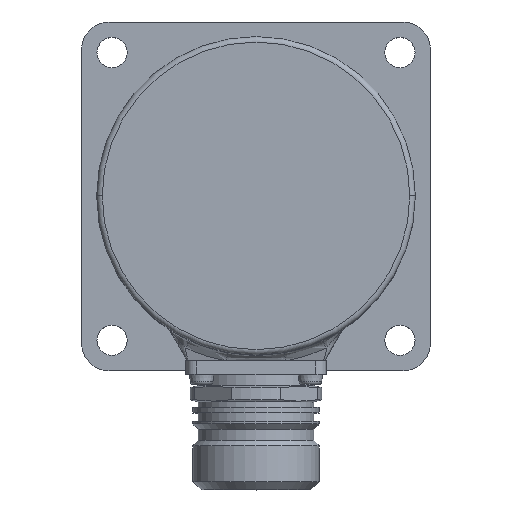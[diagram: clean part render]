
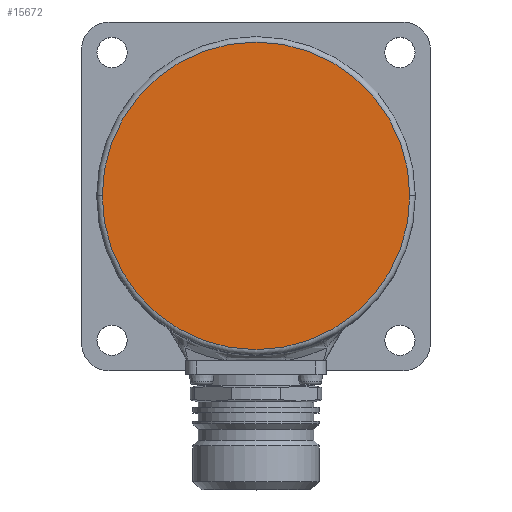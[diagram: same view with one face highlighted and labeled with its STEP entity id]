
A CAD part, top view. The second image highlights one B-rep face of the part: STEP entity #15672.
In plain terms, the highlighted planar face has unit normal (0, 0, 1).
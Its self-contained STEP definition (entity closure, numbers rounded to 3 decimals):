
#8752 = CARTESIAN_POINT ( 'NONE',  ( 28., 0., 89.55 ) ) ;
#8805 = CARTESIAN_POINT ( 'NONE',  ( 0., 0., 89.55 ) ) ;
#8806 = AXIS2_PLACEMENT_3D ( 'NONE', #8805, #8861, #8860 ) ;
#8807 = DIRECTION ( 'NONE',  ( 1., 0., 0. ) ) ;
#8808 = DIRECTION ( 'NONE',  ( 0., 0., -1. ) ) ;
#8809 = CARTESIAN_POINT ( 'NONE',  ( 0., 0., 89.55 ) ) ;
#8810 = AXIS2_PLACEMENT_3D ( 'NONE', #8809, #8808, #8807 ) ;
#8811 = CIRCLE ( 'NONE', #8806, 28. ) ;
#8812 = PLANE ( 'NONE',  #8810 ) ;
#8828 = FACE_OUTER_BOUND ( 'NONE', #15667, .T. ) ;
#8860 = DIRECTION ( 'NONE',  ( 1., 0., 0. ) ) ;
#8861 = DIRECTION ( 'NONE',  ( 0., 0., 1. ) ) ;
#8917 = CARTESIAN_POINT ( 'NONE',  ( -28., 0., 89.55 ) ) ;
#8983 = DIRECTION ( 'NONE',  ( 1., 0., 0. ) ) ;
#8984 = DIRECTION ( 'NONE',  ( 0., 0., 1. ) ) ;
#8985 = CARTESIAN_POINT ( 'NONE',  ( 0., 0., 89.55 ) ) ;
#8986 = AXIS2_PLACEMENT_3D ( 'NONE', #8985, #8984, #8983 ) ;
#8987 = CIRCLE ( 'NONE', #8986, 28. ) ;
#15652 = VERTEX_POINT ( 'NONE', #8752 ) ;
#15667 = EDGE_LOOP ( 'NONE', ( #15789, #15790 ) ) ;
#15672 = ADVANCED_FACE ( 'NONE', ( #8828 ), #8812, .F. ) ;
#15673 = EDGE_CURVE ( 'NONE', #15685, #15652, #8811, .T. ) ;
#15685 = VERTEX_POINT ( 'NONE', #8917 ) ;
#15705 = EDGE_CURVE ( 'NONE', #15652, #15685, #8987, .T. ) ;
#15789 = ORIENTED_EDGE ( 'NONE', *, *, #15705, .T. ) ;
#15790 = ORIENTED_EDGE ( 'NONE', *, *, #15673, .T. ) ;
